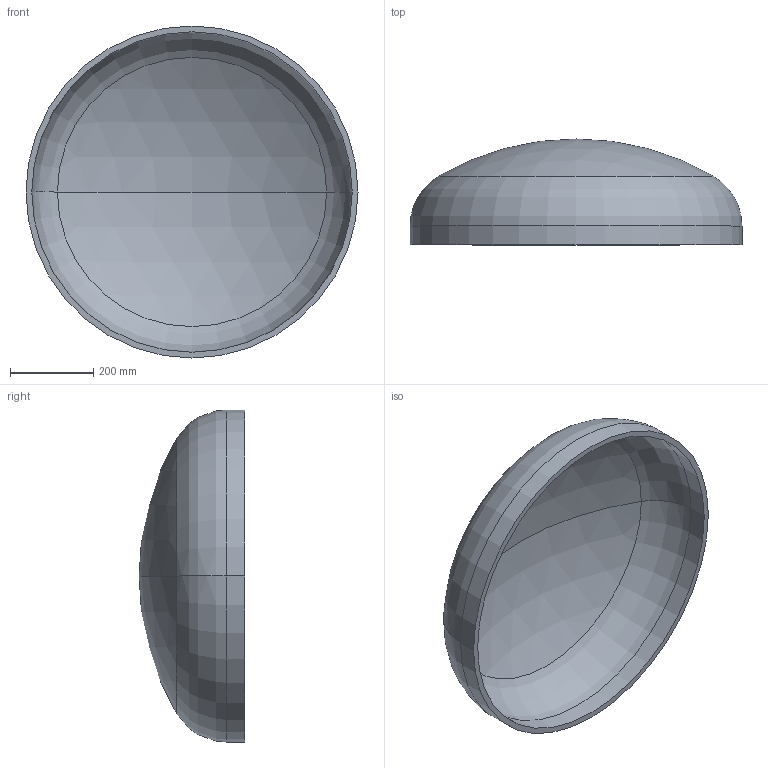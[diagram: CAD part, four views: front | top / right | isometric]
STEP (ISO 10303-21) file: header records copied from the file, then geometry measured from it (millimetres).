
FILE_DESCRIPTION (( 'STEP AP203' ), '1' );
FILE_NAME ('DIN 28013 Korbbogenform_-_Boden DIN 28013 - 800 x 45 - I - s=14.step', '2016-07-01T08:12:57', ( '' ), ( '' ), 'SwSTEP 2.0', 'SolidWorks 2013', '' );
FILE_SCHEMA (( 'CONFIG_CONTROL_DESIGN' ));
Length unit declared in the file: millimetre
Products named in the file (1): DIN 28013 Korbbogenform_-_Boden DIN 28013 - 800 x 45 - I - s=14
Bounding box: 800 x 255.04 x 800 mm (x, y, z)
Volume: 11107238.7 mm3; surface area: 1621728.5 mm2
Topology: 1 solids, 1 shells, 13 faces, 24 edges, 14 vertices
Faces by surface type: torus 4, cylinder 4, sphere 4, plane 1
Entity records: 407 total; most frequent: DIRECTION 72, CARTESIAN_POINT 52, ORIENTED_EDGE 48, AXIS2_PLACEMENT_3D 34, EDGE_CURVE 24, CIRCLE 20, VERTEX_POINT 14, EDGE_LOOP 14
